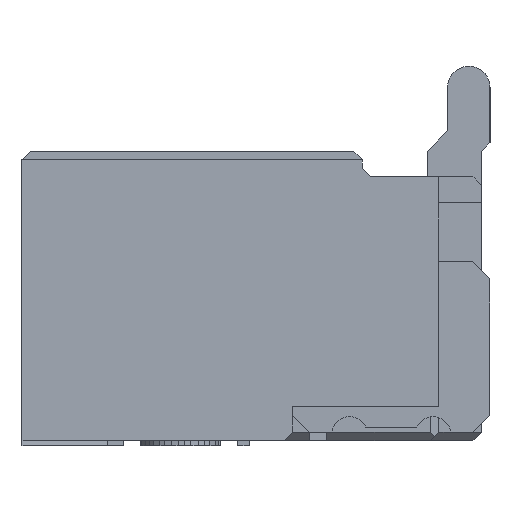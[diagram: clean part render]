
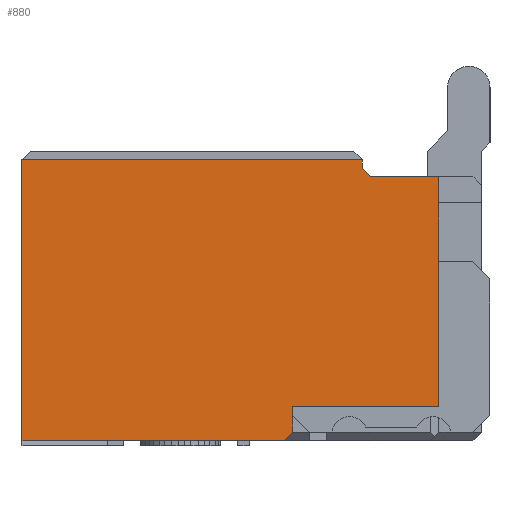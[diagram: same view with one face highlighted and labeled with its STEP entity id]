
A CAD part, left-side view. The second image highlights one B-rep face of the part: STEP entity #880.
In plain terms, the highlighted planar face has unit normal (-1, 0, 0).
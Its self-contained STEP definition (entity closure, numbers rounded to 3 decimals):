
#10=CARTESIAN_POINT('',(-3.49,0.,0.));
#20=DIRECTION('',(1.,0.,0.));
#30=DIRECTION('',(0.,0.,-1.));
#40=AXIS2_PLACEMENT_3D('',#10,#20,#30);
#50=PLANE('',#40);
#60=CARTESIAN_POINT('',(-3.49,1.16,-0.85));
#70=DIRECTION('',(0.,1.,0.));
#80=VECTOR('',#70,1.54);
#90=LINE('',#60,#80);
#100=CARTESIAN_POINT('',(-3.49,1.16,-0.85));
#110=VERTEX_POINT('',#100);
#120=CARTESIAN_POINT('',(-3.49,2.7,-0.85));
#130=VERTEX_POINT('',#120);
#140=EDGE_CURVE('',#110,#130,#90,.T.);
#150=ORIENTED_EDGE('',*,*,#140,.F.);
#160=CARTESIAN_POINT('',(-3.49,2.7,-0.85));
#170=DIRECTION('',(0.,0.,1.));
#180=VECTOR('',#170,1.65);
#190=LINE('',#160,#180);
#200=CARTESIAN_POINT('',(-3.49,2.7,0.8));
#210=VERTEX_POINT('',#200);
#220=EDGE_CURVE('',#130,#210,#190,.T.);
#230=ORIENTED_EDGE('',*,*,#220,.F.);
#240=CARTESIAN_POINT('',(-3.49,0.7,0.8));
#250=DIRECTION('',(0.,1.,0.));
#260=VECTOR('',#250,2.);
#270=LINE('',#240,#260);
#280=CARTESIAN_POINT('',(-3.49,0.7,0.8));
#290=VERTEX_POINT('',#280);
#300=EDGE_CURVE('',#290,#210,#270,.T.);
#310=ORIENTED_EDGE('',*,*,#300,.T.);
#320=CARTESIAN_POINT('',(-3.49,0.7,0.75));
#330=DIRECTION('',(0.,0.,1.));
#340=VECTOR('',#330,0.05);
#350=LINE('',#320,#340);
#360=CARTESIAN_POINT('',(-3.49,0.7,0.75));
#370=VERTEX_POINT('',#360);
#380=EDGE_CURVE('',#370,#290,#350,.T.);
#390=ORIENTED_EDGE('',*,*,#380,.T.);
#400=CARTESIAN_POINT('',(-3.49,0.65,0.7));
#410=DIRECTION('',(0.,0.707,0.707));
#420=VECTOR('',#410,0.071);
#430=LINE('',#400,#420);
#440=CARTESIAN_POINT('',(-3.49,0.65,0.7));
#450=VERTEX_POINT('',#440);
#460=EDGE_CURVE('',#450,#370,#430,.T.);
#470=ORIENTED_EDGE('',*,*,#460,.T.);
#480=CARTESIAN_POINT('',(-3.49,0.25,0.7));
#490=DIRECTION('',(0.,1.,0.));
#500=VECTOR('',#490,0.4);
#510=LINE('',#480,#500);
#520=CARTESIAN_POINT('',(-3.49,0.25,0.7));
#530=VERTEX_POINT('',#520);
#540=EDGE_CURVE('',#530,#450,#510,.T.);
#550=ORIENTED_EDGE('',*,*,#540,.T.);
#560=CARTESIAN_POINT('',(-3.49,0.25,0.7));
#570=DIRECTION('',(0.,0.,-1.));
#580=VECTOR('',#570,1.35);
#590=LINE('',#560,#580);
#600=CARTESIAN_POINT('',(-3.49,0.25,-0.65));
#610=VERTEX_POINT('',#600);
#620=EDGE_CURVE('',#530,#610,#590,.T.);
#630=ORIENTED_EDGE('',*,*,#620,.F.);
#640=CARTESIAN_POINT('',(-3.49,0.25,-0.65));
#650=DIRECTION('',(0.,1.,0.));
#660=VECTOR('',#650,0.86);
#670=LINE('',#640,#660);
#680=CARTESIAN_POINT('',(-3.49,1.11,-0.65));
#690=VERTEX_POINT('',#680);
#700=EDGE_CURVE('',#610,#690,#670,.T.);
#710=ORIENTED_EDGE('',*,*,#700,.F.);
#720=CARTESIAN_POINT('',(-3.49,1.11,-0.8));
#730=DIRECTION('',(0.,0.,1.));
#740=VECTOR('',#730,0.15);
#750=LINE('',#720,#740);
#760=CARTESIAN_POINT('',(-3.49,1.11,-0.8));
#770=VERTEX_POINT('',#760);
#780=EDGE_CURVE('',#770,#690,#750,.T.);
#790=ORIENTED_EDGE('',*,*,#780,.T.);
#800=CARTESIAN_POINT('',(-3.49,1.16,-0.85));
#810=DIRECTION('',(0.,-0.707,0.707));
#820=VECTOR('',#810,0.071);
#830=LINE('',#800,#820);
#840=EDGE_CURVE('',#110,#770,#830,.T.);
#850=ORIENTED_EDGE('',*,*,#840,.T.);
#860=EDGE_LOOP('',(#850,#790,#710,#630,#550,#470,#390,#310,#230,#150));
#870=FACE_OUTER_BOUND('',#860,.T.);
#880=ADVANCED_FACE('',(#870),#50,.F.);
